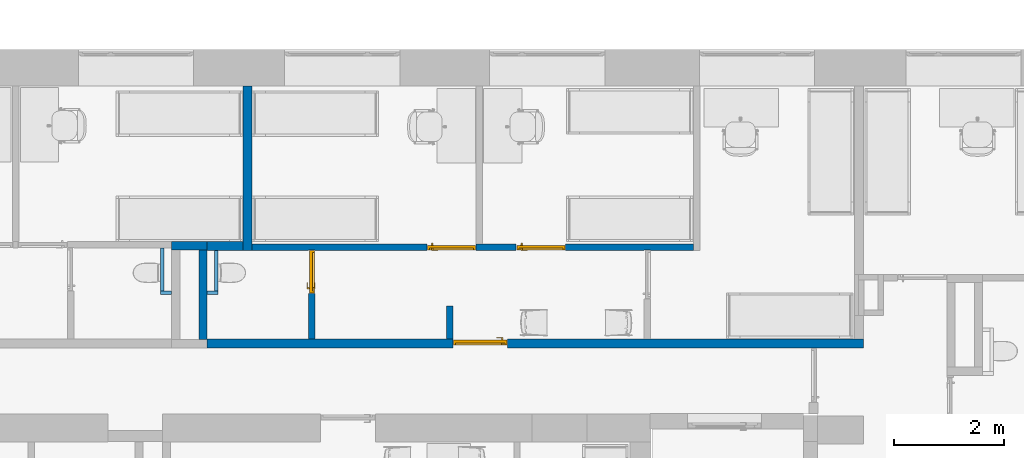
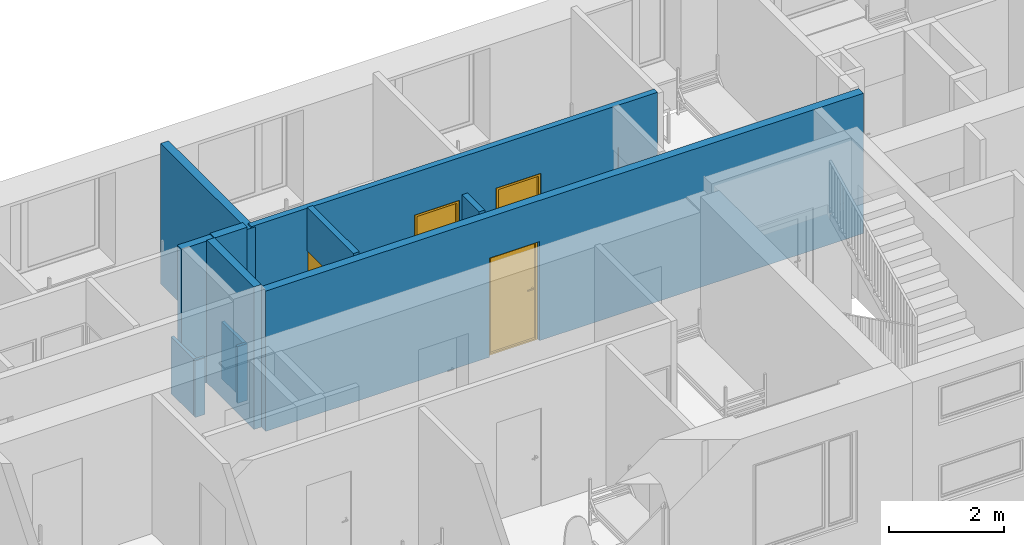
# One storey, part 10 of 48: 12 walls, 4 doors, 7 openings.
"""IFC2X3 building model written with IfcOpenShell, lengths in millimetres."""

from ifc_helpers import new_model, entity, si_unit, converted_unit, derived_unit, direction, frame, frame_2d, origin, place, context, subcontext, project, spatial, rectangle, extrude, faceted_brep, source, transform, mapped, material, material_list, layer, layer_set, layer_usage, type_object, type_shapes, element, fill, save


model = new_model("IFC2X3")

# Units and contexts
model_context = context("Model", 3, precision=0.01, world=origin(), true_north=direction((6.12303176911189e-17, 1.0)))
body_context = subcontext(model_context, "Body", "Model", "MODEL_VIEW")
ifc_project = project(units=[si_unit("LENGTHUNIT", "METRE", prefix="MILLI"), si_unit("AREAUNIT", "SQUARE_METRE"), si_unit("VOLUMEUNIT", "CUBIC_METRE"), converted_unit("PLANEANGLEUNIT", "DEGREE", entity("IfcRatioMeasure", 0.0174532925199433), si_unit("PLANEANGLEUNIT", "RADIAN"), dimensions=[0, 0, 0, 0, 0, 0, 0]), si_unit("MASSUNIT", "GRAM", prefix="KILO"), derived_unit("MASSDENSITYUNIT", [(si_unit("MASSUNIT", "GRAM", prefix="KILO"), 1), (si_unit("LENGTHUNIT", "METRE"), -3)]), si_unit("TIMEUNIT", "SECOND"), si_unit("FREQUENCYUNIT", "HERTZ"), si_unit("THERMODYNAMICTEMPERATUREUNIT", "DEGREE_CELSIUS"), derived_unit("THERMALTRANSMITTANCEUNIT", [(si_unit("MASSUNIT", "GRAM", prefix="KILO"), 1), (si_unit("THERMODYNAMICTEMPERATUREUNIT", "KELVIN"), -1), (si_unit("TIMEUNIT", "SECOND"), -3)]), derived_unit("VOLUMETRICFLOWRATEUNIT", [(si_unit("LENGTHUNIT", "METRE"), 3), (si_unit("TIMEUNIT", "SECOND"), -1)]), si_unit("ELECTRICCURRENTUNIT", "AMPERE"), si_unit("ELECTRICVOLTAGEUNIT", "VOLT"), si_unit("POWERUNIT", "WATT"), si_unit("FORCEUNIT", "NEWTON", prefix="KILO"), si_unit("ILLUMINANCEUNIT", "LUX"), si_unit("LUMINOUSFLUXUNIT", "LUMEN"), si_unit("LUMINOUSINTENSITYUNIT", "CANDELA"), derived_unit("USERDEFINED", [(si_unit("MASSUNIT", "GRAM", prefix="KILO"), -1), (si_unit("LENGTHUNIT", "METRE"), -2), (si_unit("TIMEUNIT", "SECOND"), 3), (si_unit("LUMINOUSFLUXUNIT", "LUMEN"), 1)]), derived_unit("LINEARVELOCITYUNIT", [(si_unit("LENGTHUNIT", "METRE"), 1), (si_unit("TIMEUNIT", "SECOND"), -1)]), si_unit("PRESSUREUNIT", "PASCAL"), derived_unit("USERDEFINED", [(si_unit("LENGTHUNIT", "METRE"), -2), (si_unit("MASSUNIT", "GRAM", prefix="KILO"), 1), (si_unit("TIMEUNIT", "SECOND"), -2)]), derived_unit("LINEARFORCEUNIT", [(si_unit("MASSUNIT", "GRAM", prefix="KILO"), 1), (si_unit("LENGTHUNIT", "METRE"), 1), (si_unit("TIMEUNIT", "SECOND"), -2), (si_unit("LENGTHUNIT", "METRE"), -1)]), derived_unit("PLANARFORCEUNIT", [(si_unit("MASSUNIT", "GRAM", prefix="KILO"), 1), (si_unit("LENGTHUNIT", "METRE"), 1), (si_unit("TIMEUNIT", "SECOND"), -2), (si_unit("LENGTHUNIT", "METRE"), -2)])], contexts=[model_context])

# Site, building, storey
site_placement = place(None, origin())
site = spatial("IfcSite", under=ifc_project, at=site_placement, Name="Default", CompositionType="ELEMENT")
building_placement = place(site_placement, origin())
building = spatial("IfcBuilding", under=site, at=building_placement, Name="SMA ARH", CompositionType="ELEMENT")
storey_placement = place(building_placement, frame((0.0, 0.0, 6600.0)))
storey = spatial("IfcBuildingStorey", under=building, at=storey_placement, Name="3 Korrus", CompositionType="ELEMENT", Elevation=6599.99999999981)

# Walls
ifc_material_1 = material(Name="EST. Müüritis. Väikeplokk. Kergkruusplokk")
ifc_layer_1 = layer(ifc_material_1, 150.0)
ifc_layer_set_1 = layer_set([ifc_layer_1], Name="Basic Wall:SS-02_ 150mm šahtide vahesein")
ifc_layer_usage_1 = layer_usage(ifc_layer_set_1, "AXIS2", "POSITIVE", -75.0)
wall_type_1 = type_object("IfcWallType", Name="Basic Wall:SS-02_ 150mm šahtide vahesein", PredefinedType="STANDARD", material=ifc_layer_set_1)
wall_1_placement = place(storey_placement, frame((22087.2884818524, 9582.0, 0.0)))
element("IfcWallStandardCase", 1, at=wall_1_placement, inside=storey, type_object=wall_type_1, material=ifc_layer_usage_1, Name="Basic Wall:SS-02_ 150mm šahtide vahesein", ObjectType="Basic Wall:SS-02_ 150mm šahtide vahesein", context=body_context, shape_type="SweptSolid", body=[
    extrude(rectangle(XDim=650.000000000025, YDim=150.000000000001, at=frame_2d((325.000000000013, 4.68958205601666e-13), x_axis=(-1.0, 0.0))), origin(), (0.0, 0.0, 1.0), 2999.9999999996),
])
ifc_layer_usage_2 = layer_usage(ifc_layer_set_1, "AXIS2", "POSITIVE", -75.0)
wall_2_placement = place(storey_placement, frame((22662.2884818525, 9507.0, 0.0), z_axis=(0.0, 0.0, 1.0), x_axis=(0.0, -1.0, 0.0)))
element("IfcWallStandardCase", 2, at=wall_2_placement, inside=storey, type_object=wall_type_1, material=ifc_layer_usage_2, Name="Basic Wall:SS-02_ 150mm šahtide vahesein", ObjectType="Basic Wall:SS-02_ 150mm šahtide vahesein", context=body_context, shape_type="SweptSolid", body=[
    extrude(rectangle(XDim=1637.00000000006, YDim=150.000000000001, at=frame_2d((818.500000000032, 3.69482222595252e-13), x_axis=(-1.0, 0.0))), origin(), (0.0, 0.0, 1.0), 3019.99999999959),
])

# Wall, openings, door
ifc_material_2 = material(Name="EST. Ehitusplaat. Kipsplaat")
ifc_layer_2 = layer(ifc_material_2, 12.5)
ifc_layer_3 = layer(ifc_material_2, 12.5)
ifc_material_3 = material(Name="EST. Soojustus. Mineraalvill. Default")
ifc_layer_4 = layer(ifc_material_3, 50.0)
ifc_layer_5 = layer(ifc_material_2, 12.5)
ifc_layer_6 = layer(ifc_material_3, 50.0)
ifc_layer_7 = layer(ifc_material_2, 12.5)
ifc_layer_8 = layer(ifc_material_2, 12.5)
ifc_layer_set_2 = layer_set([ifc_layer_2, ifc_layer_3, ifc_layer_4, ifc_layer_5, ifc_layer_6, ifc_layer_7, ifc_layer_8], Name="Basic Wall:SS-04_Kips, 50+50 mm metallkarkass 2")
ifc_layer_usage_3 = layer_usage(ifc_layer_set_2, "AXIS2", "NEGATIVE", 81.25)
wall_type_2 = type_object("IfcWallType", Name="Basic Wall:SS-04_Kips, 50+50 mm metallkarkass 2", PredefinedType="STANDARD", material=ifc_layer_set_2)
wall_3_placement = place(storey_placement, frame((22737.2884818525, 7801.25000000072, 0.0)))
wall_3 = element("IfcWallStandardCase", 3, at=wall_3_placement, inside=storey, type_object=wall_type_2, material=ifc_layer_usage_3, Name="Basic Wall:SS-04_Kips, 50+50 mm metallkarkass 2", ObjectType="Basic Wall:SS-04_Kips, 50+50 mm metallkarkass 2", context=body_context, shape_type="SweptSolid", body=[
    extrude(rectangle(XDim=11969.4615181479, YDim=162.5, at=frame_2d((5984.73075907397, 1.4210854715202e-14), x_axis=(-1.0, 0.0))), origin(), (0.0, 0.0, 1.0), 2970.00000000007),
])
opening_1_placement = place(wall_3_placement, origin())
element("IfcOpeningElement", 4, at=opening_1_placement, cuts=wall_3, Name="Basic Wall:SS-04_Kips, 50+50 mm metallkarkass 2", ObjectType="Opening", context=body_context, shape_type="SweptSolid", body=[
    extrude(rectangle(XDim=2099.99999999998, YDim=162.500000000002, at=frame_2d((-2.16715534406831e-12, -5.6843418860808e-13), x_axis=(0.0, 1.0))), frame((11055.2115181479, -1081.25, 1050.0), z_axis=(0.0, 1.0, 0.0), x_axis=(-1.0, 0.0, 0.0)), (0.0, 0.0, 1.0), 999.999999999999),
])
opening_2_placement = place(wall_3_placement, frame((4482.0, -81.2500000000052, 0.0)))
opening_2 = element("IfcOpeningElement", 5, at=opening_2_placement, cuts=wall_3, Name="SMA_D01, 1-poolne:SU-P-04 - 1000x2100 EI-30:1", ObjectType="Opening", context=body_context, shape_type="SweptSolid", body=[
    extrude(rectangle(XDim=2099.99999999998, YDim=1000.0, at=frame_2d((1049.99999999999, 500.0), x_axis=(1.0, 0.0))), frame((0.0, 0.0, 0.0), z_axis=(0.0, 1.0, 0.0), x_axis=(0.0, 0.0, 1.0)), (0.0, 0.0, 1.0), 162.5),
])
ifc_material_4 = material(Name="EST. Metall. Alumiinium. Värvitud. RAL7023 (Concrete grey)")
ifc_material_5 = material(Name="<Unnamed>")
ifc_material_6 = material(Name="EST. Klaas. 3x. Default")
ifc_material_list_1 = material_list([ifc_material_4, ifc_material_4, ifc_material_4, ifc_material_5, ifc_material_6, ifc_material_5, ifc_material_5])
door_style_1 = type_object("IfcDoorStyle", Name="SMA_D01, 1-poolne:SU-P-04 - 1000x2100 EI-30", ConstructionType="NOTDEFINED", OperationType="SINGLE_SWING_LEFT", ParameterTakesPrecedence=False, Sizeable=False, material=ifc_material_list_1)
shared_shape_1 = source(origin(), body_context, "Body", "Brep", [
    faceted_brep([(890.0, 52.5000000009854, 1112.5), (795.0, 52.5000000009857, 1112.5), (795.0, 47.5000000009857, 1112.5), (915.0, 47.5000000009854, 1112.5), (915.0, 90.5000000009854, 1112.5), (890.0, 90.5000000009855, 1112.5), (890.0, 52.5000000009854, 1087.5), (890.0, 90.5000000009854, 1087.5), (915.0, 90.5000000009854, 1087.5), (915.0, 47.5000000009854, 1087.5), (795.0, 47.5000000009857, 1087.5), (795.0, 52.5000000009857, 1087.5)], [[[0, 1, 2, 3, 4, 5]], [[6, 7, 8, 9, 10, 11]], [[5, 7, 6, 0]], [[4, 8, 7, 5]], [[3, 9, 8, 4]], [[2, 10, 9, 3]], [[1, 11, 10, 2]], [[0, 6, 11, 1]]]),
    faceted_brep([(877.500000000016, 90.5000000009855, 1137.5), (927.500000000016, 90.5000000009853, 1137.5), (927.500000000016, 92.5000000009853, 1137.5), (877.500000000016, 92.5000000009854, 1137.5), (877.500000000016, 90.5000000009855, 1017.5), (877.500000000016, 92.5000000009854, 1017.5), (927.500000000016, 92.5000000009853, 1017.5), (927.500000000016, 90.5000000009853, 1017.5)], [[[0, 1, 2, 3]], [[4, 5, 6, 7]], [[3, 5, 4, 0]], [[2, 6, 5, 3]], [[1, 7, 6, 2]], [[0, 4, 7, 1]]]),
    faceted_brep([(890.0, 182.500000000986, 1112.5), (890.0, 144.500000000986, 1112.5), (915.0, 144.500000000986, 1112.5), (915.0, 187.500000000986, 1112.5), (795.0, 187.500000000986, 1112.5), (795.0, 182.500000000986, 1112.5), (890.0, 182.500000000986, 1087.5), (795.0, 182.500000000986, 1087.5), (795.0, 187.500000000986, 1087.5), (915.0, 187.500000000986, 1087.5), (915.0, 144.500000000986, 1087.5), (890.0, 144.500000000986, 1087.5)], [[[0, 1, 2, 3, 4, 5]], [[6, 7, 8, 9, 10, 11]], [[1, 0, 6, 11]], [[2, 1, 11, 10]], [[3, 2, 10, 9]], [[4, 3, 9, 8]], [[5, 4, 8, 7]], [[0, 5, 7, 6]]]),
    faceted_brep([(877.500000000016, 144.500000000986, 1137.5), (877.500000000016, 142.500000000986, 1137.5), (927.500000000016, 142.500000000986, 1137.5), (927.500000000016, 144.500000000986, 1137.5), (877.500000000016, 144.500000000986, 1017.5), (927.500000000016, 144.500000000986, 1017.5), (927.500000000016, 142.500000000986, 1017.5), (877.500000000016, 142.500000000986, 1017.5)], [[[0, 1, 2, 3]], [[4, 5, 6, 7]], [[1, 0, 4, 7]], [[2, 1, 7, 6]], [[3, 2, 6, 5]], [[0, 3, 5, 4]]]),
    faceted_brep([(50.0, 52.5000000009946, 30.0), (50.0, 92.5000000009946, 30.0), (50.0, 92.5000000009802, 20.0), (50.0, 92.5000000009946, 0.0), (50.0, 52.5000000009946, 0.0), (950.0, 52.5000000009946, 30.0), (950.0, 52.5000000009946, 0.0), (950.0, 92.5000000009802, 0.0), (950.0, 92.5000000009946, 20.0), (950.0, 92.5000000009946, 30.0), (35.0, 92.5000000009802, 0.0), (35.0, 142.500000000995, 0.0), (965.0, 142.500000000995, 0.0), (965.0, 92.5000000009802, 0.0), (35.0, 142.500000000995, 20.0), (35.0, 92.5000000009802, 20.0), (965.0, 142.500000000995, 20.0), (965.0, 92.5000000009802, 20.0)], [[[0, 1, 2, 3, 4]], [[5, 6, 7, 8, 9]], [[4, 6, 5, 0]], [[3, 10, 11, 12, 13, 7, 6, 4]], [[9, 8, 2, 1]], [[0, 5, 9, 1]], [[14, 11, 10, 15]], [[16, 17, 13, 12]], [[15, 2, 8, 17, 16, 14]], [[10, 3, 2, 15]], [[14, 16, 12, 11]], [[17, 8, 7, 13]]]),
    faceted_brep([(10.0, 52.5000000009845, 0.0), (10.0, 142.500000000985, 0.0), (35.0, 142.500000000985, 0.0), (35.0, 92.5000000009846, 0.0), (50.0, 92.5000000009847, 0.0), (50.0, 52.5000000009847, 0.0), (50.0, 52.5000000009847, 2050.0), (950.0, 52.5000000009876, 2050.0), (950.0, 52.5000000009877, 0.0), (990.0, 52.5000000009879, 0.0), (990.0, 52.5000000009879, 2090.0), (10.0, 52.5000000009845, 2090.0), (50.0, 92.5000000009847, 2050.0), (35.0, 92.5000000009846, 2065.0), (965.0, 92.5000000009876, 2065.0), (965.0, 92.5000000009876, 0.0), (950.0, 92.5000000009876, 0.0), (950.0, 92.5000000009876, 2050.0), (35.0, 142.500000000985, 2065.0), (10.0, 142.500000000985, 2090.0), (990.0, 142.500000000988, 2090.0), (990.0, 142.500000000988, 0.0), (965.0, 142.500000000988, 0.0), (965.0, 142.500000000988, 2065.0)], [[[0, 1, 2, 3, 4, 5]], [[5, 6, 7, 8, 9, 10, 11, 0]], [[4, 12, 6, 5]], [[3, 13, 14, 15, 16, 17, 12, 4]], [[2, 18, 13, 3]], [[1, 19, 20, 21, 22, 23, 18, 2]], [[0, 11, 19, 1]], [[9, 21, 20, 10]], [[8, 16, 15, 22, 21, 9]], [[7, 17, 16, 8]], [[14, 23, 22, 15]], [[6, 12, 17, 7]], [[13, 18, 23, 14]], [[10, 20, 19, 11]]]),
    faceted_brep([(965.0, 92.5000000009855, 2065.0), (35.0, 92.5000000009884, 2065.0), (35.0, 92.5000000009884, 20.0), (965.0, 92.5000000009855, 20.0), (965.0, 142.500000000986, 2065.0), (965.0, 142.500000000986, 20.0), (35.0, 142.500000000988, 20.0), (35.0, 142.500000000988, 2065.0)], [[[0, 1, 2, 3]], [[4, 5, 6, 7]], [[3, 5, 4, 0]], [[2, 6, 5, 3]], [[1, 7, 6, 2]], [[0, 4, 7, 1]]]),
])
type_shapes(door_style_1, [shared_shape_1])
door_1_placement = place(opening_2_placement, origin())
door_1 = element("IfcDoor", 6, at=door_1_placement, inside=storey, type_object=door_style_1, material=ifc_material_4, Name="SMA_D01, 1-poolne:SU-P-04 - 1000x2100 EI-30", ObjectType="SMA_D01, 1-poolne:SU-P-04 - 1000x2100 EI-30", OverallHeight=2099.99999999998, OverallWidth=999.999999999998, context=body_context, shape_type="MappedRepresentation", body=[
    mapped(shared_shape_1, transform((0.0, 0.0, 0.0), scale=1.0)),
])
fill(opening_2, door_1)

# Walls
ifc_layer_usage_4 = layer_usage(ifc_layer_set_2, "AXIS2", "NEGATIVE", 81.25)
wall_4_placement = place(storey_placement, frame((23472.5000000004, 12500.0, 0.0), z_axis=(0.0, 0.0, 1.0), x_axis=(0.0, -1.0, 0.0)))
element("IfcWallStandardCase", 7, at=wall_4_placement, inside=storey, type_object=wall_type_2, material=ifc_layer_usage_4, Name="Basic Wall:SS-04_Kips, 50+50 mm metallkarkass 2", ObjectType="Basic Wall:SS-04_Kips, 50+50 mm metallkarkass 2", context=body_context, shape_type="SweptSolid", body=[
    extrude(rectangle(XDim=3005.49999999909, YDim=162.499999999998, at=frame_2d((1502.74999999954, -1.20792265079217e-13), x_axis=(-1.0, 0.0))), origin(), (0.0, 0.0, 1.0), 2970.00000000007),
])
ifc_layer_usage_5 = layer_usage(ifc_layer_set_2, "AXIS2", "POSITIVE", -81.25)
wall_5_placement = place(storey_placement, frame((23472.5000000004, 9575.75000000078, 0.0), z_axis=(0.0, 0.0, 1.0), x_axis=(-1.0, 0.0, 0.0)))
element("IfcWallStandardCase", 8, at=wall_5_placement, inside=storey, type_object=wall_type_2, material=ifc_layer_usage_5, Name="Basic Wall:SS-04_Kips, 50+50 mm metallkarkass 2", ObjectType="Basic Wall:SS-04_Kips, 50+50 mm metallkarkass 2", context=body_context, shape_type="SweptSolid", body=[
    extrude(rectangle(XDim=653.961518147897, YDim=162.5, at=frame_2d((408.230759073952, -2.20268248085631e-13), x_axis=(-1.0, 0.0))), origin(), (0.0, 0.0, 1.0), 3019.99999999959),
])

# Wall, openings, doors
ifc_layer_9 = layer(ifc_material_2, 12.5)
ifc_layer_10 = layer(ifc_material_2, 12.5)
ifc_layer_11 = layer(ifc_material_3, 66.0)
ifc_layer_12 = layer(ifc_material_2, 12.5)
ifc_layer_13 = layer(ifc_material_2, 12.5)
ifc_layer_set_3 = layer_set([ifc_layer_9, ifc_layer_10, ifc_layer_11, ifc_layer_12, ifc_layer_13], Name="Basic Wall:SS-05_Kips, 66mm metallkarkass")
ifc_layer_usage_6 = layer_usage(ifc_layer_set_3, "AXIS2", "POSITIVE", -58.0)
wall_type_3 = type_object("IfcWallType", Name="Basic Wall:SS-05_Kips, 66mm metallkarkass", PredefinedType="STANDARD", material=ifc_layer_set_3)
wall_6_placement = place(storey_placement, frame((31609.5000000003, 9552.50000000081, 0.0), z_axis=(0.0, 0.0, 1.0), x_axis=(-1.0, 0.0, 0.0)))
wall_6 = element("IfcWallStandardCase", 9, at=wall_6_placement, inside=storey, type_object=wall_type_3, material=ifc_layer_usage_6, Name="Basic Wall:SS-05_Kips, 66mm metallkarkass", ObjectType="Basic Wall:SS-05_Kips, 66mm metallkarkass", context=body_context, shape_type="SweptSolid", body=[
    extrude(rectangle(XDim=8136.99999999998, YDim=116.0, at=frame_2d((4068.49999999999, -1.06581410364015e-14), x_axis=(-1.0, 0.0))), origin(), (0.0, 0.0, 1.0), 2999.9999999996),
])
opening_3_placement = place(wall_6_placement, origin())
element("IfcOpeningElement", 10, at=opening_3_placement, cuts=wall_6, Name="Basic Wall:SS-05_Kips, 66mm metallkarkass", ObjectType="Opening", context=body_context, shape_type="SweptSolid", body=[
    extrude(rectangle(XDim=2099.99999999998, YDim=116.0, at=frame_2d((-4.33075797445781e-12, 5.6843418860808e-13), x_axis=(0.0, 1.0))), frame((842.916457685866, 45.5000000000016, 1050.0), z_axis=(0.0, 1.0, 0.0), x_axis=(1.0, 0.0, 0.0)), (0.0, 0.0, 1.0), 900.0),
])
opening_4_placement = place(wall_6_placement, origin())
element("IfcOpeningElement", 11, at=opening_4_placement, cuts=wall_6, Name="Basic Wall:SS-05_Kips, 66mm metallkarkass", ObjectType="Opening", context=body_context, shape_type="SweptSolid", body=[
    extrude(rectangle(XDim=2099.99999999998, YDim=116.0, at=frame_2d((0.0, 5.6843418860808e-13), x_axis=(0.0, 1.0))), frame((6964.21151814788, 45.5000000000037, 1050.0), z_axis=(0.0, 1.0, 0.0), x_axis=(1.0, 0.0, 0.0)), (0.0, 0.0, 1.0), 800.0),
])
opening_5_placement = place(wall_6_placement, frame((4866.0, 58.0, 0.0)))
opening_5 = element("IfcOpeningElement", 12, at=opening_5_placement, cuts=wall_6, Name="SMA_D01, 1-poolne:SU-P-05 - 900x2100 TUBA:1", ObjectType="Opening", context=body_context, shape_type="SweptSolid", body=[
    extrude(rectangle(XDim=2099.99999999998, YDim=900.0, at=frame_2d((1049.99999999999, 450.0), x_axis=(1.0, 0.0))), frame((0.0, 0.0, 0.0), z_axis=(0.0, -1.0, 0.0), x_axis=(0.0, 0.0, 1.0)), (0.0, 0.0, 1.0), 116.0),
])
opening_6_placement = place(wall_6_placement, frame((3235.0, 58.0, 0.0)))
opening_6 = element("IfcOpeningElement", 13, at=opening_6_placement, cuts=wall_6, Name="SMA_D01, 1-poolne:SU-P-05 - 900x2100 TUBA:1", ObjectType="Opening", context=body_context, shape_type="SweptSolid", body=[
    extrude(rectangle(XDim=2099.99999999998, YDim=900.0, at=frame_2d((1049.99999999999, 450.0), x_axis=(1.0, 0.0))), frame((0.0, 0.0, 0.0), z_axis=(0.0, -1.0, 0.0), x_axis=(0.0, 0.0, 1.0)), (0.0, 0.0, 1.0), 116.0),
])
ifc_material_list_2 = material_list([ifc_material_5, ifc_material_6, ifc_material_5, ifc_material_4, ifc_material_4, ifc_material_4, ifc_material_5])
door_style_2 = type_object("IfcDoorStyle", Name="SMA_D01, 1-poolne:SU-P-05 - 900x2100 TUBA", ConstructionType="NOTDEFINED", OperationType="SINGLE_SWING_RIGHT", ParameterTakesPrecedence=False, Sizeable=False, material=ifc_material_list_2)
shared_shape_2 = source(origin(), body_context, "Body", "Brep", [
    faceted_brep([(110.0, 6.0, 1112.5), (110.0, 44.0, 1112.5), (85.0, 44.0, 1112.5), (85.0, 1.0, 1112.5), (205.0, 1.0, 1112.5), (205.0, 6.0, 1112.5), (110.0, 6.0, 1087.5), (205.0, 6.0, 1087.5), (205.0, 1.0, 1087.5), (85.0, 1.0, 1087.5), (85.0, 44.0, 1087.5), (110.0, 44.0, 1087.5)], [[[0, 1, 2, 3, 4, 5]], [[6, 7, 8, 9, 10, 11]], [[1, 0, 6, 11]], [[2, 1, 11, 10]], [[3, 2, 10, 9]], [[4, 3, 9, 8]], [[5, 4, 8, 7]], [[0, 5, 7, 6]]]),
    faceted_brep([(122.5, 44.0, 1137.5), (122.5, 46.0, 1137.5), (72.5000000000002, 46.0, 1137.5), (72.5000000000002, 44.0, 1137.5), (122.5, 44.0, 1017.5), (72.5000000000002, 44.0, 1017.5), (72.5000000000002, 46.0, 1017.5), (122.5, 46.0, 1017.5)], [[[0, 1, 2, 3]], [[4, 5, 6, 7]], [[1, 0, 4, 7]], [[2, 1, 7, 6]], [[3, 2, 6, 5]], [[0, 3, 5, 4]]]),
    faceted_brep([(110.0, 136.0, 1112.5), (205.0, 136.0, 1112.5), (205.0, 141.0, 1112.5), (85.0, 141.0, 1112.5), (85.0, 98.0, 1112.5), (110.0, 98.0, 1112.5), (110.0, 136.0, 1087.5), (110.0, 98.0, 1087.5), (85.0, 98.0, 1087.5), (85.0, 141.0, 1087.5), (205.0, 141.0, 1087.5), (205.0, 136.0, 1087.5)], [[[0, 1, 2, 3, 4, 5]], [[6, 7, 8, 9, 10, 11]], [[5, 7, 6, 0]], [[4, 8, 7, 5]], [[3, 9, 8, 4]], [[2, 10, 9, 3]], [[1, 11, 10, 2]], [[0, 6, 11, 1]]]),
    faceted_brep([(122.5, 98.0, 1137.5), (72.5000000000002, 98.0, 1137.5), (72.5000000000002, 96.0, 1137.5), (122.5, 96.0, 1137.5), (122.5, 98.0, 1017.5), (122.5, 96.0, 1017.5), (72.5000000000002, 96.0, 1017.5), (72.5000000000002, 98.0, 1017.5)], [[[0, 1, 2, 3]], [[4, 5, 6, 7]], [[3, 5, 4, 0]], [[2, 6, 5, 3]], [[1, 7, 6, 2]], [[0, 4, 7, 1]]]),
    faceted_brep([(850.0, 6.0, 30.0), (850.0, 6.0, 0.0), (850.0, 46.0, 0.0), (850.0, 46.0, 20.0), (850.0, 46.0, 30.0), (50.0, 6.0, 30.0), (50.0, 46.0, 30.0), (50.0, 46.0, 20.0), (50.0, 46.0, 0.0), (50.0, 6.0, 0.0), (35.0, 46.0, 0.0), (35.0, 96.0, 0.0), (865.0, 96.0, 0.0), (865.0, 46.0, 0.0), (865.0, 96.0, 20.0), (865.0, 46.0, 20.0), (35.0, 96.0, 20.0), (35.0, 46.0, 20.0)], [[[0, 1, 2, 3, 4]], [[5, 6, 7, 8, 9]], [[1, 0, 5, 9]], [[2, 1, 9, 8, 10, 11, 12, 13]], [[6, 4, 3, 7]], [[0, 4, 6, 5]], [[14, 15, 13, 12]], [[16, 11, 10, 17]], [[15, 14, 16, 17, 7, 3]], [[13, 15, 3, 2]], [[14, 12, 11, 16]], [[17, 10, 8, 7]]]),
    faceted_brep([(890.0, 6.0, 0.0), (850.0, 6.0, 0.0), (850.0, 46.0, 0.0), (865.0, 46.0, 0.0), (865.0, 96.0, 0.0), (890.0, 96.0, 0.0), (890.0, 6.0, 2090.0), (10.0, 6.0, 2090.0), (10.0, 6.0, 0.0), (50.0, 6.0, 0.0), (50.0, 6.0, 2050.0), (850.0, 6.0, 2050.0), (850.0, 46.0, 2050.0), (50.0, 46.0, 2050.0), (50.0, 46.0, 0.0), (35.0, 46.0, 0.0), (35.0, 46.0, 2065.0), (865.0, 46.0, 2065.0), (865.0, 96.0, 2065.0), (35.0, 96.0, 2065.0), (35.0, 96.0, 0.0), (10.0, 96.0, 0.0), (10.0, 96.0, 2090.0), (890.0, 96.0, 2090.0)], [[[0, 1, 2, 3, 4, 5]], [[1, 0, 6, 7, 8, 9, 10, 11]], [[2, 1, 11, 12]], [[3, 2, 12, 13, 14, 15, 16, 17]], [[4, 3, 17, 18]], [[5, 4, 18, 19, 20, 21, 22, 23]], [[0, 5, 23, 6]], [[8, 7, 22, 21]], [[9, 8, 21, 20, 15, 14]], [[10, 9, 14, 13]], [[16, 15, 20, 19]], [[11, 10, 13, 12]], [[17, 16, 19, 18]], [[7, 6, 23, 22]]]),
    faceted_brep([(35.0, 46.0, 2065.0), (35.0, 46.0, 20.0), (865.0, 46.0, 20.0), (865.0, 46.0, 2065.0), (35.0, 96.0, 2065.0), (865.0, 96.0, 2065.0), (865.0, 96.0, 20.0), (35.0, 96.0, 20.0)], [[[0, 1, 2, 3]], [[4, 5, 6, 7]], [[1, 0, 4, 7]], [[2, 1, 7, 6]], [[3, 2, 6, 5]], [[0, 3, 5, 4]]]),
])
type_shapes(door_style_2, [shared_shape_2])
door_2_placement = place(opening_5_placement, frame((0.0, 0.0, 0.0), z_axis=(0.0, 0.0, 1.0), x_axis=(-1.0, 0.0, 0.0)))
door_2 = element("IfcDoor", 14, at=door_2_placement, inside=storey, type_object=door_style_2, material=ifc_material_4, Name="SMA_D01, 1-poolne:SU-P-05 - 900x2100 TUBA", ObjectType="SMA_D01, 1-poolne:SU-P-05 - 900x2100 TUBA", OverallHeight=2099.99999999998, OverallWidth=899.999999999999, context=body_context, shape_type="MappedRepresentation", body=[
    mapped(shared_shape_2, transform((0.0, 0.0, 0.0), scale=1.0)),
])
fill(opening_5, door_2)
door_3_placement = place(opening_6_placement, frame((0.0, 0.0, 0.0), z_axis=(0.0, 0.0, 1.0), x_axis=(-1.0, 0.0, 0.0)))
door_3 = element("IfcDoor", 15, at=door_3_placement, inside=storey, type_object=door_style_2, material=ifc_material_4, Name="SMA_D01, 1-poolne:SU-P-05 - 900x2100 TUBA", ObjectType="SMA_D01, 1-poolne:SU-P-05 - 900x2100 TUBA", OverallHeight=2099.99999999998, OverallWidth=900.000000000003, context=body_context, shape_type="MappedRepresentation", body=[
    mapped(shared_shape_2, transform((0.0, 0.0, 0.0), scale=1.0)),
])
fill(opening_6, door_3)

# Wall, opening, door
ifc_layer_14 = layer(ifc_material_2, 12.5)
ifc_layer_15 = layer(ifc_material_2, 12.5)
ifc_material_7 = material(Name="EST. Õhkvahe. Roov. Kipsplaadi alusroov. Vertikaalne")
ifc_layer_16 = layer(ifc_material_7, 66.0)
ifc_layer_17 = layer(ifc_material_2, 12.5)
ifc_layer_18 = layer(ifc_material_2, 12.5)
ifc_layer_set_4 = layer_set([ifc_layer_14, ifc_layer_15, ifc_layer_16, ifc_layer_17, ifc_layer_18], Name="Basic Wall:SS-03_Kips, 66mm metallkarkass")
ifc_layer_usage_7 = layer_usage(ifc_layer_set_4, "AXIS2", "POSITIVE", -58.0)
wall_type_4 = type_object("IfcWallType", Name="Basic Wall:SS-03_Kips, 66mm metallkarkass", PredefinedType="STANDARD", material=ifc_layer_set_4)
wall_7_placement = place(storey_placement, frame((24645.2884818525, 7882.50000000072, 0.0), z_axis=(0.0, 0.0, 1.0), x_axis=(0.0, 1.0, 0.0)))
wall_7 = element("IfcWallStandardCase", 16, at=wall_7_placement, inside=storey, type_object=wall_type_4, material=ifc_layer_usage_7, Name="Basic Wall:SS-03_Kips, 66mm metallkarkass", ObjectType="Basic Wall:SS-03_Kips, 66mm metallkarkass", context=body_context, shape_type="SweptSolid", body=[
    extrude(rectangle(XDim=1612.00000000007, YDim=116.0, at=frame_2d((806.000000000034, -1.77635683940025e-14), x_axis=(-1.0, 0.0))), origin(), (0.0, 0.0, 1.0), 3019.99999999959),
])
opening_7_placement = place(wall_7_placement, frame((824.500000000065, -58.0, 0.0)))
opening_7 = element("IfcOpeningElement", 17, at=opening_7_placement, cuts=wall_7, Name="SMA_D01, 1-poolne:SU-P-06 - 800x2100 DUŠŠ:1", ObjectType="Opening", context=body_context, shape_type="SweptSolid", body=[
    extrude(rectangle(XDim=2099.99999999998, YDim=800.0, at=frame_2d((1049.99999999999, 400.0), x_axis=(1.0, 0.0))), frame((0.0, 0.0, 0.0), z_axis=(0.0, 1.0, 0.0), x_axis=(0.0, 0.0, 1.0)), (0.0, 0.0, 1.0), 116.0),
])
ifc_material_list_3 = material_list([ifc_material_4, ifc_material_4, ifc_material_5, ifc_material_6, ifc_material_5, ifc_material_4, ifc_material_5])
door_style_3 = type_object("IfcDoorStyle", Name="SMA_D01, 1-poolne:SU-P-06 - 800x2100 DUŠŠ", ConstructionType="NOTDEFINED", OperationType="SINGLE_SWING_RIGHT", ParameterTakesPrecedence=False, Sizeable=False, material=ifc_material_list_3)
shared_shape_3 = source(origin(), body_context, "Body", "Brep", [
    faceted_brep([(110.0, 6.0, 1112.5), (110.0, 44.0, 1112.5), (85.0, 44.0, 1112.5), (85.0, 1.0, 1112.5), (205.0, 1.0, 1112.5), (205.0, 6.0, 1112.5), (110.0, 6.0, 1087.5), (205.0, 6.0, 1087.5), (205.0, 1.0, 1087.5), (85.0, 1.0, 1087.5), (85.0, 44.0, 1087.5), (110.0, 44.0, 1087.5)], [[[0, 1, 2, 3, 4, 5]], [[6, 7, 8, 9, 10, 11]], [[1, 0, 6, 11]], [[2, 1, 11, 10]], [[3, 2, 10, 9]], [[4, 3, 9, 8]], [[5, 4, 8, 7]], [[0, 5, 7, 6]]]),
    faceted_brep([(122.5, 44.0, 1137.5), (122.5, 46.0, 1137.5), (72.4999999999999, 46.0, 1137.5), (72.4999999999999, 44.0, 1137.5), (122.5, 44.0, 1017.5), (72.4999999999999, 44.0, 1017.5), (72.4999999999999, 46.0, 1017.5), (122.5, 46.0, 1017.5)], [[[0, 1, 2, 3]], [[4, 5, 6, 7]], [[1, 0, 4, 7]], [[2, 1, 7, 6]], [[3, 2, 6, 5]], [[0, 3, 5, 4]]]),
    faceted_brep([(110.0, 136.0, 1112.5), (205.0, 136.0, 1112.5), (205.0, 141.0, 1112.5), (85.0, 141.0, 1112.5), (85.0, 98.0, 1112.5), (110.0, 98.0, 1112.5), (110.0, 136.0, 1087.5), (110.0, 98.0, 1087.5), (85.0, 98.0, 1087.5), (85.0, 141.0, 1087.5), (205.0, 141.0, 1087.5), (205.0, 136.0, 1087.5)], [[[0, 1, 2, 3, 4, 5]], [[6, 7, 8, 9, 10, 11]], [[5, 7, 6, 0]], [[4, 8, 7, 5]], [[3, 9, 8, 4]], [[2, 10, 9, 3]], [[1, 11, 10, 2]], [[0, 6, 11, 1]]]),
    faceted_brep([(122.5, 98.0, 1137.5), (72.4999999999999, 98.0, 1137.5), (72.4999999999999, 96.0, 1137.5), (122.5, 96.0, 1137.5), (122.5, 98.0, 1017.5), (122.5, 96.0, 1017.5), (72.4999999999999, 96.0, 1017.5), (72.4999999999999, 98.0, 1017.5)], [[[0, 1, 2, 3]], [[4, 5, 6, 7]], [[3, 5, 4, 0]], [[2, 6, 5, 3]], [[1, 7, 6, 2]], [[0, 4, 7, 1]]]),
    faceted_brep([(750.0, 6.0, 30.0), (750.0, 6.0, 0.0), (750.0, 46.0, 0.0), (750.0, 46.0, 20.0), (750.0, 46.0, 30.0), (50.0, 6.0, 30.0), (50.0, 46.0, 30.0), (50.0, 46.0, 20.0), (50.0, 46.0, 0.0), (50.0, 6.0, 0.0), (35.0, 46.0, 0.0), (35.0, 96.0, 0.0), (765.0, 96.0, 0.0), (765.0, 46.0, 0.0), (765.0, 96.0, 20.0), (765.0, 46.0, 20.0), (35.0, 96.0, 20.0), (35.0, 46.0, 20.0)], [[[0, 1, 2, 3, 4]], [[5, 6, 7, 8, 9]], [[1, 0, 5, 9]], [[2, 1, 9, 8, 10, 11, 12, 13]], [[6, 4, 3, 7]], [[0, 4, 6, 5]], [[14, 15, 13, 12]], [[16, 11, 10, 17]], [[15, 14, 16, 17, 7, 3]], [[13, 15, 3, 2]], [[14, 12, 11, 16]], [[17, 10, 8, 7]]]),
    faceted_brep([(790.0, 6.0, 0.0), (750.0, 6.0, 0.0), (750.0, 46.0, 0.0), (765.0, 46.0, 0.0), (765.0, 96.0, 0.0), (790.0, 96.0, 0.0), (790.0, 6.0, 2090.0), (10.0, 6.0, 2090.0), (10.0, 6.0, 0.0), (50.0, 6.0, 0.0), (50.0, 6.0, 2050.0), (750.0, 6.0, 2050.0), (750.0, 46.0, 2050.0), (50.0, 46.0, 2050.0), (50.0, 46.0, 0.0), (35.0, 46.0, 0.0), (35.0, 46.0, 2065.0), (765.0, 46.0, 2065.0), (765.0, 96.0, 2065.0), (35.0, 96.0, 2065.0), (35.0, 96.0, 0.0), (10.0, 96.0, 0.0), (10.0, 96.0, 2090.0), (790.0, 96.0, 2090.0)], [[[0, 1, 2, 3, 4, 5]], [[1, 0, 6, 7, 8, 9, 10, 11]], [[2, 1, 11, 12]], [[3, 2, 12, 13, 14, 15, 16, 17]], [[4, 3, 17, 18]], [[5, 4, 18, 19, 20, 21, 22, 23]], [[0, 5, 23, 6]], [[8, 7, 22, 21]], [[9, 8, 21, 20, 15, 14]], [[10, 9, 14, 13]], [[16, 15, 20, 19]], [[11, 10, 13, 12]], [[17, 16, 19, 18]], [[7, 6, 23, 22]]]),
    faceted_brep([(35.0, 46.0, 2065.0), (35.0, 46.0, 20.0), (765.0, 46.0, 20.0), (765.0, 46.0, 2065.0), (35.0, 96.0, 2065.0), (765.0, 96.0, 2065.0), (765.0, 96.0, 20.0), (35.0, 96.0, 20.0)], [[[0, 1, 2, 3]], [[4, 5, 6, 7]], [[1, 0, 4, 7]], [[2, 1, 7, 6]], [[3, 2, 6, 5]], [[0, 3, 5, 4]]]),
])
type_shapes(door_style_3, [shared_shape_3])
door_4_placement = place(opening_7_placement, origin())
door_4 = element("IfcDoor", 18, at=door_4_placement, inside=storey, type_object=door_style_3, material=ifc_material_4, Name="SMA_D01, 1-poolne:SU-P-06 - 800x2100 DUŠŠ", ObjectType="SMA_D01, 1-poolne:SU-P-06 - 800x2100 DUŠŠ", OverallHeight=2099.99999999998, OverallWidth=800.0, context=body_context, shape_type="MappedRepresentation", body=[
    mapped(shared_shape_3, transform((0.0, 0.0, 0.0), scale=1.0)),
])
fill(opening_7, door_4)

# Walls
ifc_layer_usage_8 = layer_usage(ifc_layer_set_4, "AXIS2", "POSITIVE", -58.0)
wall_8_placement = place(storey_placement, frame((27161.2884818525, 8482.50000000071, 0.0), z_axis=(0.0, 0.0, 1.0), x_axis=(0.0, -1.0, 0.0)))
element("IfcWallStandardCase", 19, at=wall_8_placement, inside=storey, type_object=wall_type_4, material=ifc_layer_usage_8, Name="Basic Wall:SS-03_Kips, 66mm metallkarkass", ObjectType="Basic Wall:SS-03_Kips, 66mm metallkarkass", context=body_context, shape_type="SweptSolid", body=[
    extrude(rectangle(XDim=599.999999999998, YDim=116.0, at=frame_2d((299.999999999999, 0.0), x_axis=(-1.0, 0.0))), origin(), (0.0, 0.0, 1.0), 3019.99999999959),
])
ifc_material_8 = material(Name="EST. Põrand. Plaatkate")
ifc_layer_19 = layer(ifc_material_8, 10.0)
ifc_layer_20 = layer(ifc_material_2, 12.5)
ifc_layer_21 = layer(ifc_material_7, 42.0)
ifc_layer_set_5 = layer_set([ifc_layer_19, ifc_layer_20, ifc_layer_21], Name="Basic Wall:SS-04 - loputuskast")
ifc_layer_usage_9 = layer_usage(ifc_layer_set_5, "AXIS2", "POSITIVE", -32.25)
wall_type_5 = type_object("IfcWallType", Name="Basic Wall:SS-04 - loputuskast", PredefinedType="STANDARD", material=ifc_layer_set_5)
wall_9_placement = place(storey_placement, frame((21919.5384818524, 9541.0, 0.0), z_axis=(0.0, 0.0, 1.0), x_axis=(0.0, -1.0, 0.0)))
element("IfcWallStandardCase", 20, at=wall_9_placement, inside=storey, type_object=wall_type_5, material=ifc_layer_usage_9, Name="Basic Wall:SS-04 - loputuskast", ObjectType="Basic Wall:SS-04 - loputuskast", context=body_context, shape_type="SweptSolid", body=[
    extrude(rectangle(XDim=784.0, YDim=64.5000000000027, at=frame_2d((392.0, -1.23634436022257e-12), x_axis=(-1.0, 0.0))), origin(), (0.0, 0.0, 1.0), 1200.0),
])
ifc_layer_usage_10 = layer_usage(ifc_layer_set_5, "AXIS2", "POSITIVE", -32.25)
wall_10_placement = place(storey_placement, frame((21887.2884818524, 8724.75000000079, 0.0)))
element("IfcWallStandardCase", 21, at=wall_10_placement, inside=storey, type_object=wall_type_5, material=ifc_layer_usage_10, Name="Basic Wall:SS-04 - loputuskast", ObjectType="Basic Wall:SS-04 - loputuskast", context=body_context, shape_type="SweptSolid", body=[
    extrude(rectangle(XDim=200.000000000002, YDim=64.5000000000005, at=frame_2d((100.000000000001, -2.94875235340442e-13), x_axis=(-1.0, 0.0))), origin(), (0.0, 0.0, 1.0), 1200.0),
])
ifc_layer_usage_11 = layer_usage(ifc_layer_set_5, "AXIS2", "NEGATIVE", 32.25)
wall_11_placement = place(storey_placement, frame((22905.0384818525, 9494.50000000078, 0.0), z_axis=(0.0, 0.0, 1.0), x_axis=(0.0, -1.0, 0.0)))
element("IfcWallStandardCase", 22, at=wall_11_placement, inside=storey, type_object=wall_type_5, material=ifc_layer_usage_11, Name="Basic Wall:SS-04 - loputuskast", ObjectType="Basic Wall:SS-04 - loputuskast", context=body_context, shape_type="SweptSolid", body=[
    extrude(rectangle(XDim=737.499999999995, YDim=64.5000000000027, at=frame_2d((368.749999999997, -7.42517158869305e-13), x_axis=(-1.0, 0.0))), origin(), (0.0, 0.0, 1.0), 1200.0),
])
ifc_layer_usage_12 = layer_usage(ifc_layer_set_5, "AXIS2", "NEGATIVE", 32.25)
wall_12_placement = place(storey_placement, frame((22937.2884818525, 8724.75000000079, 0.0), z_axis=(0.0, 0.0, 1.0), x_axis=(-1.0, 0.0, 0.0)))
element("IfcWallStandardCase", 23, at=wall_12_placement, inside=storey, type_object=wall_type_5, material=ifc_layer_usage_12, Name="Basic Wall:SS-04 - loputuskast", ObjectType="Basic Wall:SS-04 - loputuskast", context=body_context, shape_type="SweptSolid", body=[
    extrude(rectangle(XDim=200.000000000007, YDim=64.5000000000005, at=frame_2d((100.000000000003, 2.94875235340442e-13), x_axis=(-1.0, 0.0))), origin(), (0.0, 0.0, 1.0), 1200.0),
])

save(model, "model.ifc")
